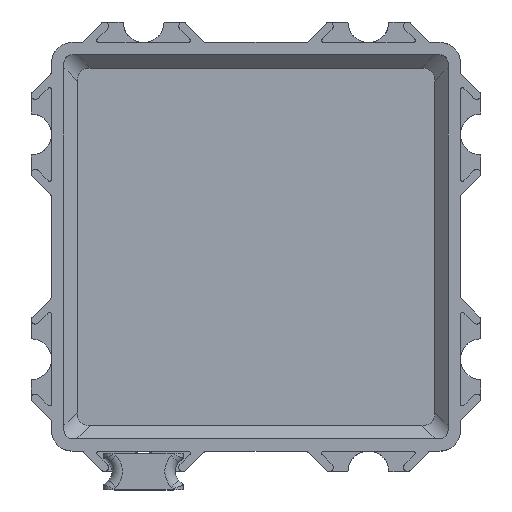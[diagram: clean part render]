
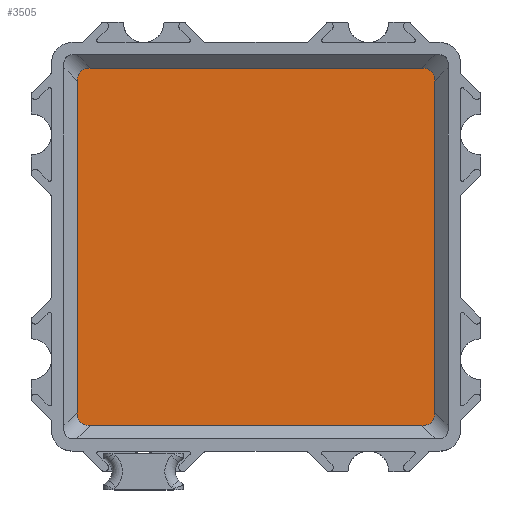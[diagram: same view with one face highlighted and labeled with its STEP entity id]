
A CAD part, top view. The second image highlights one B-rep face of the part: STEP entity #3505.
In plain terms, the highlighted planar face has unit normal (0, 0, 1).
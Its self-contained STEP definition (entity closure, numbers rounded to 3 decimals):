
#272=LINE('',#5756,#580);
#278=LINE('',#5789,#586);
#289=LINE('',#5844,#597);
#291=LINE('',#5847,#599);
#580=VECTOR('',#4707,10.);
#586=VECTOR('',#4727,10.);
#597=VECTOR('',#4764,10.);
#599=VECTOR('',#4768,10.);
#724=PLANE('',#3856);
#875=FACE_OUTER_BOUND('',#1055,.T.);
#1055=EDGE_LOOP('',(#2894,#2895,#2896,#2897,#2898,#2899,#2900,#2901));
#1138=ELLIPSE('',#3830,3.118,1.8);
#1142=ELLIPSE('',#3838,3.118,1.8);
#1145=ELLIPSE('',#3846,3.118,1.8);
#1147=ELLIPSE('',#3850,3.118,1.8);
#1538=VERTEX_POINT('',#5726);
#1539=VERTEX_POINT('',#5727);
#1544=VERTEX_POINT('',#5755);
#1547=VERTEX_POINT('',#5765);
#1550=VERTEX_POINT('',#5788);
#1554=VERTEX_POINT('',#5811);
#1558=VERTEX_POINT('',#5832);
#1559=VERTEX_POINT('',#5833);
#1984=EDGE_CURVE('',#1538,#1539,#1138,.T.);
#1992=EDGE_CURVE('',#1544,#1538,#272,.T.);
#1997=EDGE_CURVE('',#1547,#1544,#1142,.T.);
#2002=EDGE_CURVE('',#1550,#1547,#278,.T.);
#2009=EDGE_CURVE('',#1554,#1550,#1145,.T.);
#2015=EDGE_CURVE('',#1558,#1559,#1147,.T.);
#2021=EDGE_CURVE('',#1559,#1554,#289,.T.);
#2023=EDGE_CURVE('',#1539,#1558,#291,.T.);
#2894=ORIENTED_EDGE('',*,*,#1984,.T.);
#2895=ORIENTED_EDGE('',*,*,#2023,.T.);
#2896=ORIENTED_EDGE('',*,*,#2015,.T.);
#2897=ORIENTED_EDGE('',*,*,#2021,.T.);
#2898=ORIENTED_EDGE('',*,*,#2009,.T.);
#2899=ORIENTED_EDGE('',*,*,#2002,.T.);
#2900=ORIENTED_EDGE('',*,*,#1997,.T.);
#2901=ORIENTED_EDGE('',*,*,#1992,.T.);
#3505=ADVANCED_FACE('',(#875),#724,.F.);
#3830=AXIS2_PLACEMENT_3D('',#5728,#4693,#4694);
#3838=AXIS2_PLACEMENT_3D('',#5766,#4717,#4718);
#3846=AXIS2_PLACEMENT_3D('',#5812,#4740,#4741);
#3850=AXIS2_PLACEMENT_3D('',#5834,#4751,#4752);
#3856=AXIS2_PLACEMENT_3D('',#5848,#4769,#4770);
#4693=DIRECTION('center_axis',(0.,0.,1.));
#4694=DIRECTION('ref_axis',(-0.707,0.707,0.));
#4707=DIRECTION('',(-1.,0.,0.));
#4717=DIRECTION('center_axis',(0.,0.,1.));
#4718=DIRECTION('ref_axis',(0.707,0.707,0.));
#4727=DIRECTION('',(0.,1.,0.));
#4740=DIRECTION('center_axis',(0.,0.,1.));
#4741=DIRECTION('ref_axis',(0.707,-0.707,0.));
#4751=DIRECTION('center_axis',(0.,0.,1.));
#4752=DIRECTION('ref_axis',(-0.707,-0.707,0.));
#4764=DIRECTION('',(1.,0.,0.));
#4768=DIRECTION('',(0.,-1.,0.));
#4769=DIRECTION('center_axis',(0.,0.,-1.));
#4770=DIRECTION('ref_axis',(-1.,0.,0.));
#5726=CARTESIAN_POINT('',(5.77,39.503,-10.));
#5727=CARTESIAN_POINT('',(4.497,38.23,-10.));
#5728=CARTESIAN_POINT('Origin',(7.043,36.957,-10.));
#5755=CARTESIAN_POINT('',(38.23,39.503,-10.));
#5756=CARTESIAN_POINT('',(17.,39.503,-10.));
#5765=CARTESIAN_POINT('',(39.503,38.23,-10.));
#5766=CARTESIAN_POINT('Origin',(36.957,36.957,-10.));
#5788=CARTESIAN_POINT('',(39.503,5.77,-10.));
#5789=CARTESIAN_POINT('',(39.503,27.,-10.));
#5811=CARTESIAN_POINT('',(38.23,4.497,-10.));
#5812=CARTESIAN_POINT('Origin',(36.957,7.043,-10.));
#5832=CARTESIAN_POINT('',(4.497,5.77,-10.));
#5833=CARTESIAN_POINT('',(5.77,4.497,-10.));
#5834=CARTESIAN_POINT('Origin',(7.043,7.043,-10.));
#5844=CARTESIAN_POINT('',(27.,4.497,-10.));
#5847=CARTESIAN_POINT('',(4.497,17.,-10.));
#5848=CARTESIAN_POINT('Origin',(22.,22.,-10.));
